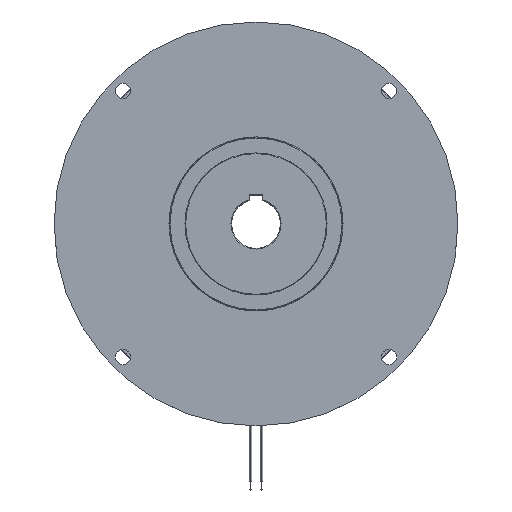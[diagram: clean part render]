
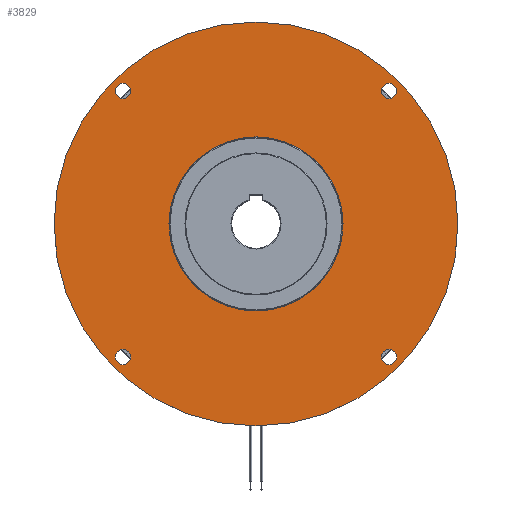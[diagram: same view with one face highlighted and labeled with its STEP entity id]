
A CAD part, top view. The second image highlights one B-rep face of the part: STEP entity #3829.
In plain terms, the highlighted planar face has unit normal (0, 0, 1).
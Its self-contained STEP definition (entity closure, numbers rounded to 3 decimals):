
#27 = CARTESIAN_POINT ( 'NONE',  ( -95.459, -95.459, 0. ) ) ;
#52 = FACE_BOUND ( 'NONE', #1825, .T. ) ;
#103 = DIRECTION ( 'NONE',  ( -1., 0., 0. ) ) ;
#234 = DIRECTION ( 'NONE',  ( -1., 0., 0. ) ) ;
#263 = DIRECTION ( 'NONE',  ( -1., 0., 0. ) ) ;
#355 = EDGE_CURVE ( 'NONE', #9856, #5456, #7166, .T. ) ;
#469 = DIRECTION ( 'NONE',  ( 0., 0., -1. ) ) ;
#669 = EDGE_CURVE ( 'NONE', #8819, #2597, #10078, .T. ) ;
#1120 = DIRECTION ( 'NONE',  ( -1., 0., 0. ) ) ;
#1285 = CIRCLE ( 'NONE', #8506, 5.5 ) ;
#1299 = CARTESIAN_POINT ( 'NONE',  ( 0., 0., 0. ) ) ;
#1320 = VERTEX_POINT ( 'NONE', #4168 ) ;
#1526 = EDGE_LOOP ( 'NONE', ( #7805, #5627 ) ) ;
#1825 = EDGE_LOOP ( 'NONE', ( #9618, #8373 ) ) ;
#1953 = DIRECTION ( 'NONE',  ( 0., 0., -1. ) ) ;
#1995 = FACE_BOUND ( 'NONE', #4183, .T. ) ;
#2159 = ORIENTED_EDGE ( 'NONE', *, *, #6982, .T. ) ;
#2285 = EDGE_CURVE ( 'NONE', #10411, #5339, #9534, .T. ) ;
#2425 = FACE_BOUND ( 'NONE', #5256, .T. ) ;
#2505 = AXIS2_PLACEMENT_3D ( 'NONE', #3035, #11995, #103 ) ;
#2597 = VERTEX_POINT ( 'NONE', #11238 ) ;
#2955 = EDGE_CURVE ( 'NONE', #4532, #4261, #1285, .T. ) ;
#3021 = ORIENTED_EDGE ( 'NONE', *, *, #11595, .T. ) ;
#3035 = CARTESIAN_POINT ( 'NONE',  ( 0., 125., 0. ) ) ;
#3114 = ORIENTED_EDGE ( 'NONE', *, *, #2285, .F. ) ;
#3172 = CARTESIAN_POINT ( 'NONE',  ( -95.459, 95.459, 0. ) ) ;
#3197 = CARTESIAN_POINT ( 'NONE',  ( 145., 0., 0. ) ) ;
#3422 = DIRECTION ( 'NONE',  ( 0., 0., -1. ) ) ;
#3520 = ORIENTED_EDGE ( 'NONE', *, *, #11788, .F. ) ;
#3581 = CIRCLE ( 'NONE', #10765, 145. ) ;
#3609 = CARTESIAN_POINT ( 'NONE',  ( -100.959, 95.459, 0. ) ) ;
#3829 = ADVANCED_FACE ( 'NONE', ( #2425, #4123, #1995, #8973, #52, #11849 ), #10010, .F. ) ;
#3968 = AXIS2_PLACEMENT_3D ( 'NONE', #6168, #9215, #234 ) ;
#4123 = FACE_OUTER_BOUND ( 'NONE', #5703, .T. ) ;
#4168 = CARTESIAN_POINT ( 'NONE',  ( -89.959, 95.459, 0. ) ) ;
#4183 = EDGE_LOOP ( 'NONE', ( #2159, #5006 ) ) ;
#4261 = VERTEX_POINT ( 'NONE', #11054 ) ;
#4411 = CIRCLE ( 'NONE', #8543, 5.5 ) ;
#4425 = CARTESIAN_POINT ( 'NONE',  ( -95.459, -95.459, 0. ) ) ;
#4430 = DIRECTION ( 'NONE',  ( 0., 0., -1. ) ) ;
#4503 = EDGE_CURVE ( 'NONE', #9747, #8176, #10563, .T. ) ;
#4532 = VERTEX_POINT ( 'NONE', #9011 ) ;
#4636 = CARTESIAN_POINT ( 'NONE',  ( -89.959, -95.459, 0. ) ) ;
#4981 = CIRCLE ( 'NONE', #7460, 5.5 ) ;
#5006 = ORIENTED_EDGE ( 'NONE', *, *, #12542, .T. ) ;
#5256 = EDGE_LOOP ( 'NONE', ( #5579, #12658 ) ) ;
#5339 = VERTEX_POINT ( 'NONE', #3197 ) ;
#5437 = CARTESIAN_POINT ( 'NONE',  ( 95.459, 95.459, 0. ) ) ;
#5456 = VERTEX_POINT ( 'NONE', #8467 ) ;
#5579 = ORIENTED_EDGE ( 'NONE', *, *, #11969, .T. ) ;
#5608 = AXIS2_PLACEMENT_3D ( 'NONE', #11602, #8777, #12698 ) ;
#5627 = ORIENTED_EDGE ( 'NONE', *, *, #12665, .T. ) ;
#5690 = CARTESIAN_POINT ( 'NONE',  ( 95.459, 95.459, 0. ) ) ;
#5703 = EDGE_LOOP ( 'NONE', ( #3114, #3520 ) ) ;
#5952 = EDGE_LOOP ( 'NONE', ( #3021, #9061 ) ) ;
#6070 = CARTESIAN_POINT ( 'NONE',  ( 0., 0., 0. ) ) ;
#6168 = CARTESIAN_POINT ( 'NONE',  ( 0., 0., 0. ) ) ;
#6645 = AXIS2_PLACEMENT_3D ( 'NONE', #27, #9993, #8957 ) ;
#6678 = CARTESIAN_POINT ( 'NONE',  ( -145., 0., 0. ) ) ;
#6959 = CARTESIAN_POINT ( 'NONE',  ( 62.5, 0., 0. ) ) ;
#6982 = EDGE_CURVE ( 'NONE', #12474, #1320, #10542, .T. ) ;
#7103 = CARTESIAN_POINT ( 'NONE',  ( 95.459, -95.459, 0. ) ) ;
#7166 = CIRCLE ( 'NONE', #8209, 5.5 ) ;
#7182 = AXIS2_PLACEMENT_3D ( 'NONE', #1299, #11281, #263 ) ;
#7460 = AXIS2_PLACEMENT_3D ( 'NONE', #4425, #12094, #10107 ) ;
#7676 = CIRCLE ( 'NONE', #12218, 5.5 ) ;
#7716 = DIRECTION ( 'NONE',  ( -1., 0., 0. ) ) ;
#7805 = ORIENTED_EDGE ( 'NONE', *, *, #4503, .T. ) ;
#7832 = CIRCLE ( 'NONE', #9471, 5.5 ) ;
#8032 = CARTESIAN_POINT ( 'NONE',  ( -100.959, -95.459, 0. ) ) ;
#8156 = DIRECTION ( 'NONE',  ( -1., 0., 0. ) ) ;
#8176 = VERTEX_POINT ( 'NONE', #4636 ) ;
#8209 = AXIS2_PLACEMENT_3D ( 'NONE', #5690, #9634, #7716 ) ;
#8367 = CARTESIAN_POINT ( 'NONE',  ( 100.959, 95.459, 0. ) ) ;
#8373 = ORIENTED_EDGE ( 'NONE', *, *, #9465, .T. ) ;
#8467 = CARTESIAN_POINT ( 'NONE',  ( 89.959, 95.459, 0. ) ) ;
#8506 = AXIS2_PLACEMENT_3D ( 'NONE', #7103, #8840, #10822 ) ;
#8543 = AXIS2_PLACEMENT_3D ( 'NONE', #5437, #469, #10403 ) ;
#8777 = DIRECTION ( 'NONE',  ( 0., 0., -1. ) ) ;
#8819 = VERTEX_POINT ( 'NONE', #6959 ) ;
#8840 = DIRECTION ( 'NONE',  ( 0., 0., -1. ) ) ;
#8957 = DIRECTION ( 'NONE',  ( -1., 0., 0. ) ) ;
#8973 = FACE_BOUND ( 'NONE', #1526, .T. ) ;
#9007 = CARTESIAN_POINT ( 'NONE',  ( -95.459, 95.459, 0. ) ) ;
#9011 = CARTESIAN_POINT ( 'NONE',  ( 89.959, -95.459, 0. ) ) ;
#9061 = ORIENTED_EDGE ( 'NONE', *, *, #355, .T. ) ;
#9162 = DIRECTION ( 'NONE',  ( -1., 0., 0. ) ) ;
#9215 = DIRECTION ( 'NONE',  ( 0., 0., -1. ) ) ;
#9465 = EDGE_CURVE ( 'NONE', #4261, #4532, #7832, .T. ) ;
#9471 = AXIS2_PLACEMENT_3D ( 'NONE', #11259, #4430, #10044 ) ;
#9534 = CIRCLE ( 'NONE', #3968, 145. ) ;
#9618 = ORIENTED_EDGE ( 'NONE', *, *, #2955, .T. ) ;
#9634 = DIRECTION ( 'NONE',  ( 0., 0., -1. ) ) ;
#9747 = VERTEX_POINT ( 'NONE', #8032 ) ;
#9856 = VERTEX_POINT ( 'NONE', #8367 ) ;
#9989 = DIRECTION ( 'NONE',  ( 0., 0., -1. ) ) ;
#9993 = DIRECTION ( 'NONE',  ( 0., 0., -1. ) ) ;
#10010 = PLANE ( 'NONE',  #2505 ) ;
#10044 = DIRECTION ( 'NONE',  ( -1., 0., 0. ) ) ;
#10078 = CIRCLE ( 'NONE', #7182, 62.5 ) ;
#10107 = DIRECTION ( 'NONE',  ( -1., 0., 0. ) ) ;
#10403 = DIRECTION ( 'NONE',  ( -1., 0., 0. ) ) ;
#10411 = VERTEX_POINT ( 'NONE', #6678 ) ;
#10542 = CIRCLE ( 'NONE', #12195, 5.5 ) ;
#10563 = CIRCLE ( 'NONE', #6645, 5.5 ) ;
#10765 = AXIS2_PLACEMENT_3D ( 'NONE', #6070, #1953, #8156 ) ;
#10822 = DIRECTION ( 'NONE',  ( -1., 0., 0. ) ) ;
#11054 = CARTESIAN_POINT ( 'NONE',  ( 100.959, -95.459, 0. ) ) ;
#11187 = CIRCLE ( 'NONE', #5608, 62.5 ) ;
#11238 = CARTESIAN_POINT ( 'NONE',  ( -62.5, 0., 0. ) ) ;
#11259 = CARTESIAN_POINT ( 'NONE',  ( 95.459, -95.459, 0. ) ) ;
#11281 = DIRECTION ( 'NONE',  ( 0., 0., -1. ) ) ;
#11595 = EDGE_CURVE ( 'NONE', #5456, #9856, #4411, .T. ) ;
#11602 = CARTESIAN_POINT ( 'NONE',  ( 0., 0., 0. ) ) ;
#11788 = EDGE_CURVE ( 'NONE', #5339, #10411, #3581, .T. ) ;
#11849 = FACE_BOUND ( 'NONE', #5952, .T. ) ;
#11969 = EDGE_CURVE ( 'NONE', #2597, #8819, #11187, .T. ) ;
#11995 = DIRECTION ( 'NONE',  ( 0., 0., -1. ) ) ;
#12094 = DIRECTION ( 'NONE',  ( 0., 0., -1. ) ) ;
#12195 = AXIS2_PLACEMENT_3D ( 'NONE', #3172, #3422, #9162 ) ;
#12218 = AXIS2_PLACEMENT_3D ( 'NONE', #9007, #9989, #1120 ) ;
#12474 = VERTEX_POINT ( 'NONE', #3609 ) ;
#12542 = EDGE_CURVE ( 'NONE', #1320, #12474, #7676, .T. ) ;
#12658 = ORIENTED_EDGE ( 'NONE', *, *, #669, .T. ) ;
#12665 = EDGE_CURVE ( 'NONE', #8176, #9747, #4981, .T. ) ;
#12698 = DIRECTION ( 'NONE',  ( -1., 0., 0. ) ) ;
